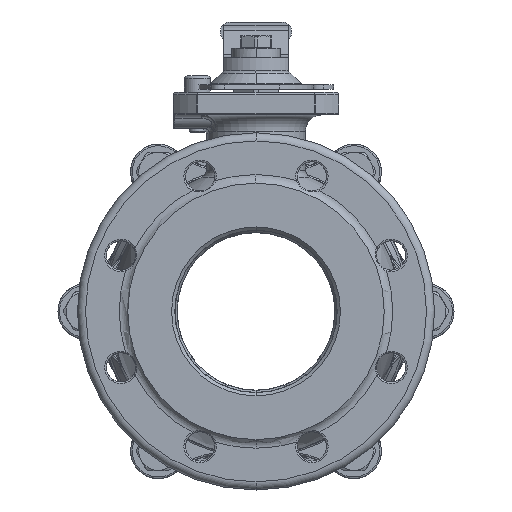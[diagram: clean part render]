
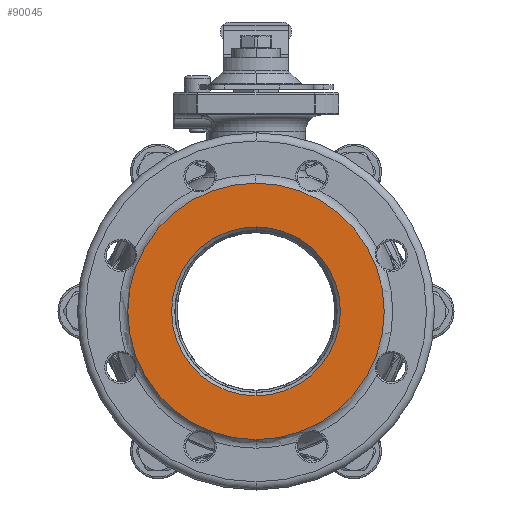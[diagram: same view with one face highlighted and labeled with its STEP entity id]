
A CAD part, left-side view. The second image highlights one B-rep face of the part: STEP entity #90045.
In plain terms, the highlighted planar face has unit normal (-1, 0, 0).
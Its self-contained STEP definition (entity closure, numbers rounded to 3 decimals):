
#19043=CARTESIAN_POINT('',(-75.,0.,0.));
#19044=DIRECTION('',(-1.,0.,0.));
#19045=DIRECTION('',(0.,0.,-1.));
#19046=AXIS2_PLACEMENT_3D('',#19043,#19044,#19045);
#19048=CARTESIAN_POINT('',(-75.,0.,0.));
#19049=DIRECTION('',(-1.,0.,0.));
#19050=DIRECTION('',(0.,0.,1.));
#19051=AXIS2_PLACEMENT_3D('',#19048,#19049,#19050);
#19053=CARTESIAN_POINT('',(-75.,0.,0.));
#19054=DIRECTION('',(-1.,0.,0.));
#19055=DIRECTION('',(0.,0.,1.));
#19056=AXIS2_PLACEMENT_3D('',#19053,#19054,#19055);
#19058=CARTESIAN_POINT('',(-75.,0.,0.));
#19059=DIRECTION('',(1.,0.,0.));
#19060=DIRECTION('',(0.,0.,1.));
#19061=AXIS2_PLACEMENT_3D('',#19058,#19059,#19060);
#48876=CARTESIAN_POINT('',(-75.,0.,52.));
#48877=CARTESIAN_POINT('',(-75.,0.,-52.));
#48878=VERTEX_POINT('',#48876);
#48879=VERTEX_POINT('',#48877);
#50918=CARTESIAN_POINT('',(-75.,0.,-79.));
#50919=CARTESIAN_POINT('',(-75.,0.,79.));
#50920=VERTEX_POINT('',#50918);
#50921=VERTEX_POINT('',#50919);
#90031=CARTESIAN_POINT('',(-75.,0.,0.));
#90032=DIRECTION('',(-1.,0.,0.));
#90033=DIRECTION('',(0.,0.,1.));
#90034=AXIS2_PLACEMENT_3D('',#90031,#90032,#90033);
#90035=PLANE('',#90034);
#90037=ORIENTED_EDGE('',*,*,#90036,.F.);
#90038=ORIENTED_EDGE('',*,*,#90006,.F.);
#90039=EDGE_LOOP('',(#90037,#90038));
#90040=FACE_OUTER_BOUND('',#90039,.F.);
#90041=ORIENTED_EDGE('',*,*,#59565,.T.);
#90042=ORIENTED_EDGE('',*,*,#59550,.F.);
#90043=EDGE_LOOP('',(#90041,#90042));
#90044=FACE_BOUND('',#90043,.F.);
#90045=ADVANCED_FACE('',(#90040,#90044),#90035,.T.);
#19047=CIRCLE('',#19046,79.);
#19052=CIRCLE('',#19051,79.);
#19057=CIRCLE('',#19056,52.);
#19062=CIRCLE('',#19061,52.);
#59550=EDGE_CURVE('',#48878,#48879,#19062,.T.);
#59565=EDGE_CURVE('',#48878,#48879,#19057,.T.);
#90006=EDGE_CURVE('',#50921,#50920,#19052,.T.);
#90036=EDGE_CURVE('',#50920,#50921,#19047,.T.);
